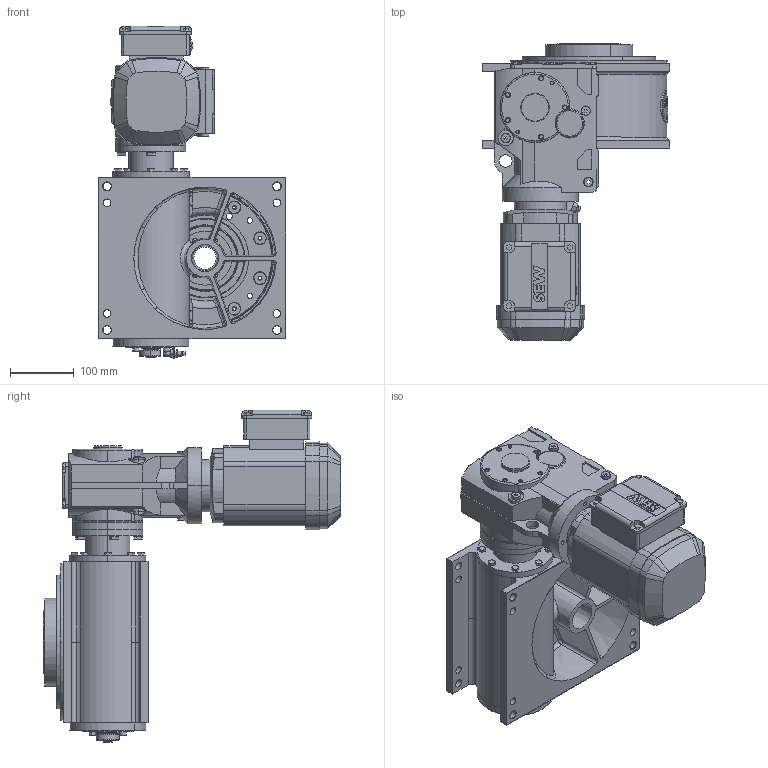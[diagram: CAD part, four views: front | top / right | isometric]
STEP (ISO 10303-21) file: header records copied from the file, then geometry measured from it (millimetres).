
FILE_DESCRIPTION (( 'STEP AP214' ), '1' );
FILE_NAME ('M210_SEW_KA37DRS71S4_D2_09.STEP', '2020-06-17T04:03:58', ( '' ), ( '' ), 'SwSTEP 2.0', 'SolidWorks 2020', '' );
FILE_SCHEMA (( 'AUTOMOTIVE_DESIGN' ));
Length unit declared in the file: millimetre
Products named in the file (1): M210_SEW_KA37DRS71S4_D2_09
Bounding box: 295 x 467 x 522 mm (x, y, z)
Surface area: 855800.5 mm2 (no closed solid volume)
Topology: 0 solids, 77 shells, 1471 faces, 4426 edges, 2967 vertices
Faces by surface type: plane 642, cylinder 459, cone 194, bspline 124, torus 52
Entity records: 74541 total; most frequent: CARTESIAN_POINT 19353, DIRECTION 8118, ORIENTED_EDGE 7538, EDGE_CURVE 4397, VERTEX_POINT 2967, AXIS2_PLACEMENT_3D 2961, VECTOR 2196, LINE 2196
